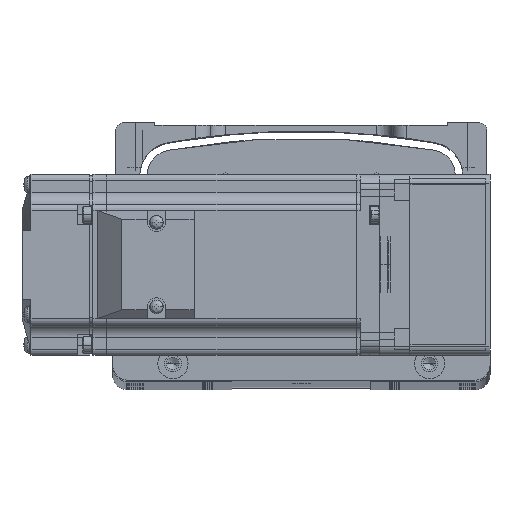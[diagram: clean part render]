
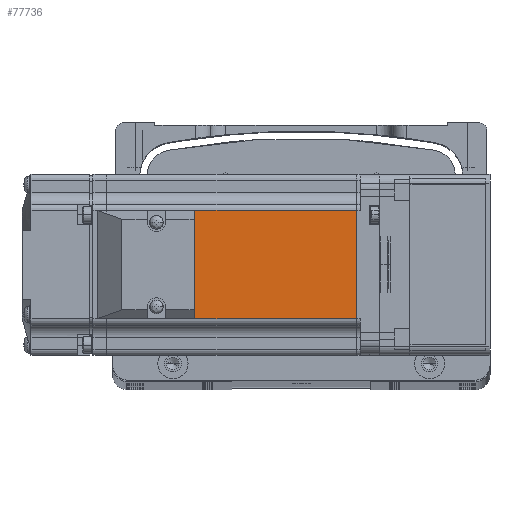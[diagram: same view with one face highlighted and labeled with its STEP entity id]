
A CAD part, top view. The second image highlights one B-rep face of the part: STEP entity #77736.
In plain terms, the highlighted planar face has unit normal (0, 0, 1) as drawn and (0, 1, 0) by its records, which use the part's own axes.
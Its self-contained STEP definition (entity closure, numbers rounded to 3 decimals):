
#1641 = LINE ( 'NONE', #80915, #37528 ) ;
#3444 = EDGE_CURVE ( 'NONE', #83847, #16121, #20963, .T. ) ;
#7756 = PLANE ( 'NONE',  #37493 ) ;
#7980 = CARTESIAN_POINT ( 'NONE',  ( -6.5, 30., -18. ) ) ;
#11258 = VERTEX_POINT ( 'NONE', #60579 ) ;
#16121 = VERTEX_POINT ( 'NONE', #48327 ) ;
#18921 = LINE ( 'NONE', #38609, #34790 ) ;
#20963 = LINE ( 'NONE', #7980, #38929 ) ;
#29434 = CARTESIAN_POINT ( 'NONE',  ( -7.75, 30., -18. ) ) ;
#31782 = DIRECTION ( 'NONE',  ( 0., 0., 1. ) ) ;
#34790 = VECTOR ( 'NONE', #31782, 1000. ) ;
#34867 = DIRECTION ( 'NONE',  ( 1., 0., 0. ) ) ;
#34902 = DIRECTION ( 'NONE',  ( 0., 1., 0. ) ) ;
#37493 = AXIS2_PLACEMENT_3D ( 'NONE', #75359, #34902, #82193 ) ;
#37528 = VECTOR ( 'NONE', #40501, 1000. ) ;
#38609 = CARTESIAN_POINT ( 'NONE',  ( -7.75, 30., 0. ) ) ;
#38929 = VECTOR ( 'NONE', #48436, 1000. ) ;
#40501 = DIRECTION ( 'NONE',  ( 0., 0., 1. ) ) ;
#44405 = EDGE_CURVE ( 'NONE', #16121, #11258, #1641, .T. ) ;
#48327 = CARTESIAN_POINT ( 'NONE',  ( -90.45, 30., -18. ) ) ;
#48436 = DIRECTION ( 'NONE',  ( -1., 0., 0. ) ) ;
#53896 = VECTOR ( 'NONE', #34867, 1000. ) ;
#56006 = LINE ( 'NONE', #61707, #53896 ) ;
#57949 = EDGE_CURVE ( 'NONE', #83847, #73873, #18921, .T. ) ;
#60579 = CARTESIAN_POINT ( 'NONE',  ( -90.45, 30., 18. ) ) ;
#61707 = CARTESIAN_POINT ( 'NONE',  ( -6.5, 30., 18. ) ) ;
#68693 = EDGE_LOOP ( 'NONE', ( #73207, #68906, #74138, #87410 ) ) ;
#68906 = ORIENTED_EDGE ( 'NONE', *, *, #3444, .T. ) ;
#69889 = FACE_OUTER_BOUND ( 'NONE', #68693, .T. ) ;
#73207 = ORIENTED_EDGE ( 'NONE', *, *, #57949, .F. ) ;
#73873 = VERTEX_POINT ( 'NONE', #76234 ) ;
#74138 = ORIENTED_EDGE ( 'NONE', *, *, #44405, .T. ) ;
#75359 = CARTESIAN_POINT ( 'NONE',  ( -6.5, 30., 25. ) ) ;
#76234 = CARTESIAN_POINT ( 'NONE',  ( -7.75, 30., 18. ) ) ;
#77736 = ADVANCED_FACE ( 'NONE', ( #69889 ), #7756, .T. ) ;
#80915 = CARTESIAN_POINT ( 'NONE',  ( -90.45, 30., 0. ) ) ;
#81563 = EDGE_CURVE ( 'NONE', #11258, #73873, #56006, .T. ) ;
#82193 = DIRECTION ( 'NONE',  ( 0., 0., 1. ) ) ;
#83847 = VERTEX_POINT ( 'NONE', #29434 ) ;
#87410 = ORIENTED_EDGE ( 'NONE', *, *, #81563, .T. ) ;
